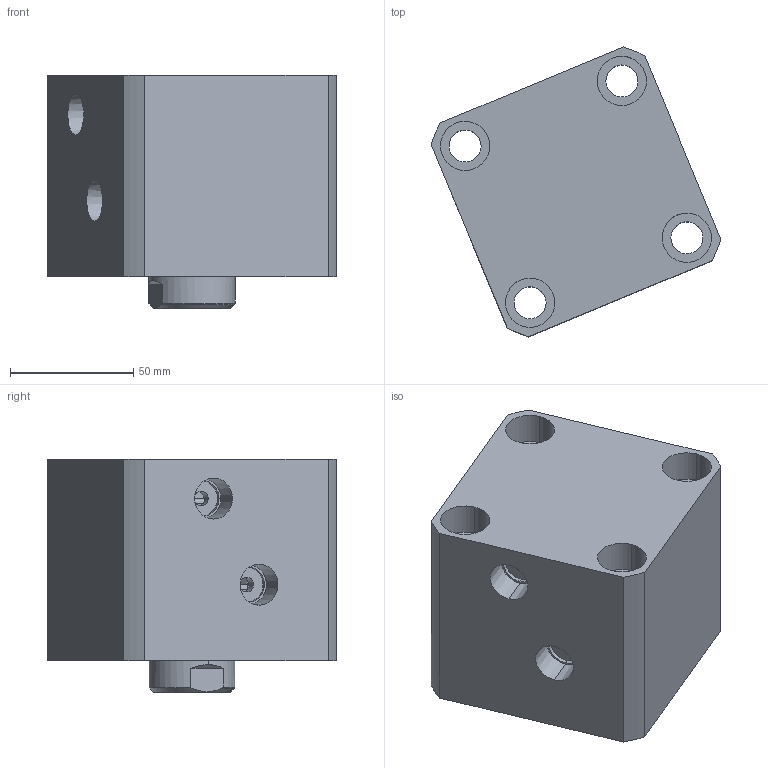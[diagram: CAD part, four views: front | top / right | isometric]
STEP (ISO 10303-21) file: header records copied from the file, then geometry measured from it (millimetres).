
FILE_DESCRIPTION (( 'STEP AP214' ), '1' );
FILE_NAME ('chtb-sd63x15n_asm.STEP', '2018-05-09T01:43:13', ( 'Windows' ), ( 'Microsoft' ), 'SwSTEP 2.0', 'SolidWorks 2015', '' );
FILE_SCHEMA (( 'AUTOMOTIVE_DESIGN' ));
Length unit declared in the file: millimetre
Products named in the file (4): CHTB63X15NHSG; CHTB63X15NBT; CHTB-63QG; chtb-sd63x15n_asm
Assembly tree (3 placements, depth 2):
  chtb-sd63x15n_asm
    CHTB-63QG
    CHTB63X15NBT
    CHTB63X15NHSG
Bounding box: 117.81 x 117.81 x 95 mm (x, y, z)
Volume: 620993.7 mm3; surface area: 115410.1 mm2
Topology: 3 solids, 3 shells, 165 faces, 465 edges, 318 vertices
Faces by surface type: cylinder 101, plane 33, bspline 12, cone 12, torus 7
Entity records: 17638 total; most frequent: CARTESIAN_POINT 13505, ORIENTED_EDGE 918, DIRECTION 719, EDGE_CURVE 459, VERTEX_POINT 318, AXIS2_PLACEMENT_3D 291, EDGE_LOOP 197, ADVANCED_FACE 165
